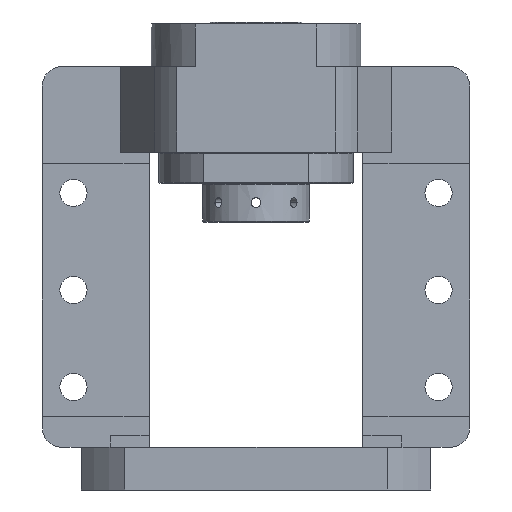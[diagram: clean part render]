
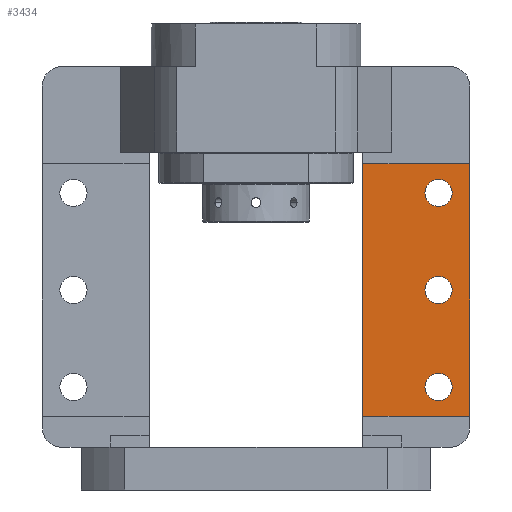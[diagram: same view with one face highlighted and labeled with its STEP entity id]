
A CAD part, front view. The second image highlights one B-rep face of the part: STEP entity #3434.
In plain terms, the highlighted planar face has unit normal (0, -1, 0).
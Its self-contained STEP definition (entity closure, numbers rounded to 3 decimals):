
#547 = LINE ( 'NONE', #5589, #11369 ) ;
#888 = ORIENTED_EDGE ( 'NONE', *, *, #16874, .F. ) ;
#1421 = CARTESIAN_POINT ( 'NONE',  ( 94., 0., 153. ) ) ;
#1883 = CIRCLE ( 'NONE', #18382, 7. ) ;
#2963 = FACE_BOUND ( 'NONE', #15183, .T. ) ;
#2977 = CARTESIAN_POINT ( 'NONE',  ( 110., 0., 225. ) ) ;
#3434 = ADVANCED_FACE ( 'NONE', ( #2963, #14452, #25173, #8705 ), #16002, .T. ) ;
#3445 = VECTOR ( 'NONE', #6637, 1000. ) ;
#3601 = DIRECTION ( 'NONE',  ( 0., 0., -1. ) ) ;
#4007 = DIRECTION ( 'NONE',  ( 0., -1., 0. ) ) ;
#4230 = CARTESIAN_POINT ( 'NONE',  ( 110., 0., 168. ) ) ;
#4718 = ORIENTED_EDGE ( 'NONE', *, *, #18009, .F. ) ;
#4941 = CIRCLE ( 'NONE', #6440, 7. ) ;
#4953 = CARTESIAN_POINT ( 'NONE',  ( 94., 0., 153. ) ) ;
#5261 = CIRCLE ( 'NONE', #14606, 7. ) ;
#5589 = CARTESIAN_POINT ( 'NONE',  ( 110., 0., 38. ) ) ;
#5688 = CARTESIAN_POINT ( 'NONE',  ( 110., 0., 38. ) ) ;
#5778 = VERTEX_POINT ( 'NONE', #23078 ) ;
#6440 = AXIS2_PLACEMENT_3D ( 'NONE', #16936, #4007, #19110 ) ;
#6637 = DIRECTION ( 'NONE',  ( 0., 0., -1. ) ) ;
#6673 = EDGE_CURVE ( 'NONE', #9142, #27557, #547, .T. ) ;
#6827 = ORIENTED_EDGE ( 'NONE', *, *, #18442, .F. ) ;
#6979 = VERTEX_POINT ( 'NONE', #23696 ) ;
#7123 = DIRECTION ( 'NONE',  ( 0., 0., -1. ) ) ;
#7499 = AXIS2_PLACEMENT_3D ( 'NONE', #4953, #20057, #7123 ) ;
#7623 = CARTESIAN_POINT ( 'NONE',  ( 94., 0., 60. ) ) ;
#7664 = CIRCLE ( 'NONE', #7499, 7. ) ;
#7767 = DIRECTION ( 'NONE',  ( 1., 0., 0. ) ) ;
#8038 = DIRECTION ( 'NONE',  ( 0., -1., 0. ) ) ;
#8231 = EDGE_CURVE ( 'NONE', #9474, #5778, #20083, .T. ) ;
#8705 = FACE_OUTER_BOUND ( 'NONE', #17197, .T. ) ;
#9140 = EDGE_LOOP ( 'NONE', ( #4718, #21121 ) ) ;
#9142 = VERTEX_POINT ( 'NONE', #23136 ) ;
#9257 = ORIENTED_EDGE ( 'NONE', *, *, #21637, .T. ) ;
#9379 = AXIS2_PLACEMENT_3D ( 'NONE', #2977, #22478, #9573 ) ;
#9474 = VERTEX_POINT ( 'NONE', #14434 ) ;
#9573 = DIRECTION ( 'NONE',  ( 0., 0., -1. ) ) ;
#9584 = VECTOR ( 'NONE', #22634, 1000. ) ;
#10382 = VERTEX_POINT ( 'NONE', #11672 ) ;
#11369 = VECTOR ( 'NONE', #7767, 1000. ) ;
#11653 = EDGE_CURVE ( 'NONE', #9474, #27557, #21351, .T. ) ;
#11672 = CARTESIAN_POINT ( 'NONE',  ( 94., 0., 46. ) ) ;
#11675 = CARTESIAN_POINT ( 'NONE',  ( 94., 0., 103. ) ) ;
#11787 = VERTEX_POINT ( 'NONE', #13378 ) ;
#11839 = CARTESIAN_POINT ( 'NONE',  ( 55., 0., 225. ) ) ;
#11908 = CARTESIAN_POINT ( 'NONE',  ( 94., 0., 146. ) ) ;
#12026 = CARTESIAN_POINT ( 'NONE',  ( 94., 0., 110. ) ) ;
#12145 = VERTEX_POINT ( 'NONE', #12026 ) ;
#12335 = DIRECTION ( 'NONE',  ( 0., -1., 0. ) ) ;
#13026 = EDGE_LOOP ( 'NONE', ( #888, #6827 ) ) ;
#13378 = CARTESIAN_POINT ( 'NONE',  ( 94., 0., 160. ) ) ;
#13553 = AXIS2_PLACEMENT_3D ( 'NONE', #20966, #8038, #23117 ) ;
#13700 = VECTOR ( 'NONE', #23642, 1000. ) ;
#13851 = DIRECTION ( 'NONE',  ( 0., 0., -1. ) ) ;
#14434 = CARTESIAN_POINT ( 'NONE',  ( 110., 0., 168. ) ) ;
#14452 = FACE_BOUND ( 'NONE', #13026, .T. ) ;
#14606 = AXIS2_PLACEMENT_3D ( 'NONE', #1421, #16536, #3601 ) ;
#15183 = EDGE_LOOP ( 'NONE', ( #17374, #25983 ) ) ;
#15371 = LINE ( 'NONE', #11839, #9584 ) ;
#15677 = EDGE_CURVE ( 'NONE', #26743, #11787, #7664, .T. ) ;
#16002 = PLANE ( 'NONE',  #9379 ) ;
#16536 = DIRECTION ( 'NONE',  ( 0., -1., 0. ) ) ;
#16663 = EDGE_CURVE ( 'NONE', #12145, #6979, #18450, .T. ) ;
#16874 = EDGE_CURVE ( 'NONE', #10382, #22788, #4941, .T. ) ;
#16936 = CARTESIAN_POINT ( 'NONE',  ( 94., 0., 53. ) ) ;
#17114 = ORIENTED_EDGE ( 'NONE', *, *, #8231, .T. ) ;
#17197 = EDGE_LOOP ( 'NONE', ( #17906, #17114, #9257, #22524 ) ) ;
#17374 = ORIENTED_EDGE ( 'NONE', *, *, #15677, .F. ) ;
#17648 = EDGE_CURVE ( 'NONE', #11787, #26743, #5261, .T. ) ;
#17906 = ORIENTED_EDGE ( 'NONE', *, *, #11653, .F. ) ;
#18009 = EDGE_CURVE ( 'NONE', #6979, #12145, #1883, .T. ) ;
#18382 = AXIS2_PLACEMENT_3D ( 'NONE', #11675, #26673, #13851 ) ;
#18442 = EDGE_CURVE ( 'NONE', #22788, #10382, #19444, .T. ) ;
#18450 = CIRCLE ( 'NONE', #24316, 7. ) ;
#19110 = DIRECTION ( 'NONE',  ( 0., 0., -1. ) ) ;
#19444 = CIRCLE ( 'NONE', #13553, 7. ) ;
#19579 = CARTESIAN_POINT ( 'NONE',  ( 110., 0., 225. ) ) ;
#20057 = DIRECTION ( 'NONE',  ( 0., -1., 0. ) ) ;
#20083 = LINE ( 'NONE', #4230, #13700 ) ;
#20966 = CARTESIAN_POINT ( 'NONE',  ( 94., 0., 53. ) ) ;
#21121 = ORIENTED_EDGE ( 'NONE', *, *, #16663, .F. ) ;
#21351 = LINE ( 'NONE', #19579, #3445 ) ;
#21637 = EDGE_CURVE ( 'NONE', #5778, #9142, #15371, .T. ) ;
#22478 = DIRECTION ( 'NONE',  ( 0., -1., 0. ) ) ;
#22524 = ORIENTED_EDGE ( 'NONE', *, *, #6673, .T. ) ;
#22634 = DIRECTION ( 'NONE',  ( 0., 0., -1. ) ) ;
#22788 = VERTEX_POINT ( 'NONE', #7623 ) ;
#23078 = CARTESIAN_POINT ( 'NONE',  ( 55., 0., 168. ) ) ;
#23117 = DIRECTION ( 'NONE',  ( 0., 0., -1. ) ) ;
#23136 = CARTESIAN_POINT ( 'NONE',  ( 55., 0., 38. ) ) ;
#23642 = DIRECTION ( 'NONE',  ( -1., 0., 0. ) ) ;
#23696 = CARTESIAN_POINT ( 'NONE',  ( 94., 0., 96. ) ) ;
#24316 = AXIS2_PLACEMENT_3D ( 'NONE', #25189, #12335, #27317 ) ;
#25173 = FACE_BOUND ( 'NONE', #9140, .T. ) ;
#25189 = CARTESIAN_POINT ( 'NONE',  ( 94., 0., 103. ) ) ;
#25983 = ORIENTED_EDGE ( 'NONE', *, *, #17648, .F. ) ;
#26673 = DIRECTION ( 'NONE',  ( 0., -1., 0. ) ) ;
#26743 = VERTEX_POINT ( 'NONE', #11908 ) ;
#27317 = DIRECTION ( 'NONE',  ( 0., 0., -1. ) ) ;
#27557 = VERTEX_POINT ( 'NONE', #5688 ) ;
